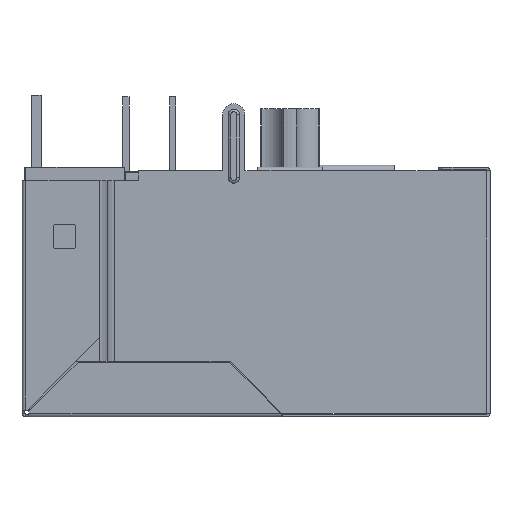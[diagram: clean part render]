
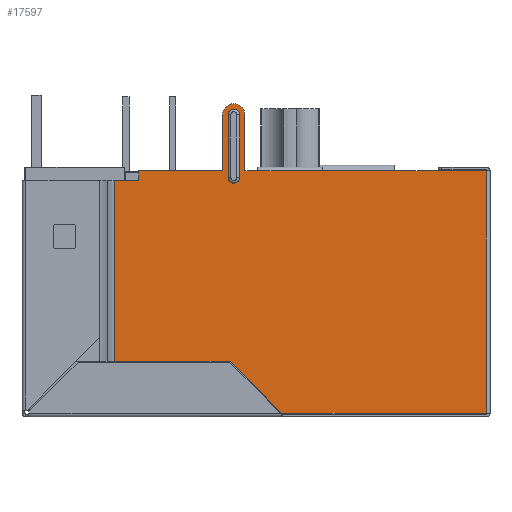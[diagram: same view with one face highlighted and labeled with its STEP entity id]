
A CAD part, left-side view. The second image highlights one B-rep face of the part: STEP entity #17597.
In plain terms, the highlighted planar face has unit normal (-1, 0, 0).
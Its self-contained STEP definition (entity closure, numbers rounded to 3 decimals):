
#690=FACE_BOUND('',#2942,.T.);
#1198=PLANE('',#18992);
#2003=FACE_OUTER_BOUND('',#2941,.T.);
#2941=EDGE_LOOP('',(#15531,#15532,#15533,#15534,#15535,#15536,#15537,#15538,
#15539,#15540,#15541,#15542,#15543,#15544));
#2942=EDGE_LOOP('',(#15545,#15546,#15547,#15548));
#3464=CIRCLE('',#18980,0.3);
#3469=CIRCLE('',#18988,0.3);
#3471=CIRCLE('',#18993,0.6);
#5284=LINE('',#28958,#7272);
#5285=LINE('',#28961,#7273);
#5287=LINE('',#28973,#7275);
#5288=LINE('',#28975,#7276);
#5289=LINE('',#28977,#7277);
#5290=LINE('',#28979,#7278);
#5291=LINE('',#28981,#7279);
#5292=LINE('',#28983,#7280);
#5293=LINE('',#28985,#7281);
#5294=LINE('',#28987,#7282);
#5295=LINE('',#28991,#7283);
#5296=LINE('',#28993,#7284);
#5297=LINE('',#28995,#7285);
#5298=LINE('',#28997,#7286);
#5299=LINE('',#28998,#7287);
#7272=VECTOR('',#22987,1000.);
#7273=VECTOR('',#22990,1000.);
#7275=VECTOR('',#23006,1000.);
#7276=VECTOR('',#23007,1000.);
#7277=VECTOR('',#23008,1000.);
#7278=VECTOR('',#23009,1000.);
#7279=VECTOR('',#23010,1000.);
#7280=VECTOR('',#23011,1000.);
#7281=VECTOR('',#23012,1000.);
#7282=VECTOR('',#23013,1000.);
#7283=VECTOR('',#23016,1000.);
#7284=VECTOR('',#23017,1000.);
#7285=VECTOR('',#23018,1000.);
#7286=VECTOR('',#23019,1000.);
#7287=VECTOR('',#23020,1000.);
#8950=VERTEX_POINT('',#28945);
#8952=VERTEX_POINT('',#28948);
#8955=VERTEX_POINT('',#28956);
#8956=VERTEX_POINT('',#28960);
#8958=VERTEX_POINT('',#28971);
#8959=VERTEX_POINT('',#28972);
#8960=VERTEX_POINT('',#28974);
#8961=VERTEX_POINT('',#28976);
#8962=VERTEX_POINT('',#28978);
#8963=VERTEX_POINT('',#28980);
#8964=VERTEX_POINT('',#28982);
#8965=VERTEX_POINT('',#28984);
#8966=VERTEX_POINT('',#28986);
#8967=VERTEX_POINT('',#28988);
#8968=VERTEX_POINT('',#28990);
#8969=VERTEX_POINT('',#28992);
#8970=VERTEX_POINT('',#28994);
#8971=VERTEX_POINT('',#28996);
#11222=EDGE_CURVE('',#8952,#8950,#3464,.F.);
#11227=EDGE_CURVE('',#8950,#8955,#5284,.T.);
#11228=EDGE_CURVE('',#8956,#8952,#5285,.T.);
#11231=EDGE_CURVE('',#8955,#8956,#3469,.F.);
#11233=EDGE_CURVE('',#8958,#8959,#5287,.T.);
#11234=EDGE_CURVE('',#8960,#8958,#5288,.T.);
#11235=EDGE_CURVE('',#8960,#8961,#5289,.T.);
#11236=EDGE_CURVE('',#8961,#8962,#5290,.T.);
#11237=EDGE_CURVE('',#8962,#8963,#5291,.T.);
#11238=EDGE_CURVE('',#8963,#8964,#5292,.T.);
#11239=EDGE_CURVE('',#8964,#8965,#5293,.T.);
#11240=EDGE_CURVE('',#8966,#8965,#5294,.T.);
#11241=EDGE_CURVE('',#8967,#8966,#3471,.T.);
#11242=EDGE_CURVE('',#8968,#8967,#5295,.T.);
#11243=EDGE_CURVE('',#8968,#8969,#5296,.T.);
#11244=EDGE_CURVE('',#8970,#8969,#5297,.T.);
#11245=EDGE_CURVE('',#8971,#8970,#5298,.T.);
#11246=EDGE_CURVE('',#8971,#8959,#5299,.T.);
#15531=ORIENTED_EDGE('',*,*,#11233,.F.);
#15532=ORIENTED_EDGE('',*,*,#11234,.F.);
#15533=ORIENTED_EDGE('',*,*,#11235,.T.);
#15534=ORIENTED_EDGE('',*,*,#11236,.T.);
#15535=ORIENTED_EDGE('',*,*,#11237,.T.);
#15536=ORIENTED_EDGE('',*,*,#11238,.T.);
#15537=ORIENTED_EDGE('',*,*,#11239,.T.);
#15538=ORIENTED_EDGE('',*,*,#11240,.F.);
#15539=ORIENTED_EDGE('',*,*,#11241,.F.);
#15540=ORIENTED_EDGE('',*,*,#11242,.F.);
#15541=ORIENTED_EDGE('',*,*,#11243,.T.);
#15542=ORIENTED_EDGE('',*,*,#11244,.F.);
#15543=ORIENTED_EDGE('',*,*,#11245,.F.);
#15544=ORIENTED_EDGE('',*,*,#11246,.T.);
#15545=ORIENTED_EDGE('',*,*,#11228,.T.);
#15546=ORIENTED_EDGE('',*,*,#11222,.T.);
#15547=ORIENTED_EDGE('',*,*,#11227,.T.);
#15548=ORIENTED_EDGE('',*,*,#11231,.T.);
#17597=ADVANCED_FACE('',(#2003,#690),#1198,.T.);
#18980=AXIS2_PLACEMENT_3D('',#28949,#22976,#22977);
#18988=AXIS2_PLACEMENT_3D('',#28966,#22996,#22997);
#18992=AXIS2_PLACEMENT_3D('',#28970,#23004,#23005);
#18993=AXIS2_PLACEMENT_3D('',#28989,#23014,#23015);
#22976=DIRECTION('center_axis',(-1.,0.,0.));
#22977=DIRECTION('ref_axis',(0.,0.,1.));
#22987=DIRECTION('',(0.,0.,1.));
#22990=DIRECTION('',(0.,0.,-1.));
#22996=DIRECTION('center_axis',(-1.,0.,0.));
#22997=DIRECTION('ref_axis',(0.,0.,1.));
#23004=DIRECTION('center_axis',(-1.,0.,0.));
#23005=DIRECTION('ref_axis',(0.,0.,1.));
#23006=DIRECTION('',(0.,1.,0.));
#23007=DIRECTION('',(0.,0.707,0.707));
#23008=DIRECTION('',(0.,-1.,0.));
#23009=DIRECTION('',(0.,0.,1.));
#23010=DIRECTION('',(0.,1.,0.));
#23011=DIRECTION('',(0.,1.,0.));
#23012=DIRECTION('',(0.,1.,0.));
#23013=DIRECTION('',(0.,0.,-1.));
#23014=DIRECTION('center_axis',(1.,0.,0.));
#23015=DIRECTION('ref_axis',(0.,1.,0.));
#23016=DIRECTION('',(0.,0.,1.));
#23017=DIRECTION('',(0.,1.,0.));
#23018=DIRECTION('',(0.,0.,1.));
#23019=DIRECTION('',(0.,-1.,0.));
#23020=DIRECTION('',(0.,0.,-1.));
#28945=CARTESIAN_POINT('',(-8.1,1.5,6.19));
#28948=CARTESIAN_POINT('',(-8.1,0.9,6.19));
#28949=CARTESIAN_POINT('Origin',(-8.1,1.2,6.19));
#28956=CARTESIAN_POINT('',(-8.1,1.5,9.59));
#28958=CARTESIAN_POINT('',(-8.1,1.5,-6.55));
#28960=CARTESIAN_POINT('',(-8.1,0.9,9.59));
#28961=CARTESIAN_POINT('',(-8.1,0.9,-6.55));
#28966=CARTESIAN_POINT('Origin',(-8.1,1.2,9.59));
#28970=CARTESIAN_POINT('Origin',(-8.1,-12.528,-6.55));
#28971=CARTESIAN_POINT('',(-8.1,1.4,-3.75));
#28972=CARTESIAN_POINT('',(-8.1,7.65,-3.75));
#28973=CARTESIAN_POINT('',(-8.1,-12.528,-3.75));
#28974=CARTESIAN_POINT('',(-8.1,-1.4,-6.55));
#28975=CARTESIAN_POINT('',(-8.1,-6.964,-12.114));
#28976=CARTESIAN_POINT('',(-8.1,-12.45,-6.55));
#28977=CARTESIAN_POINT('',(-8.1,7.65,-6.55));
#28978=CARTESIAN_POINT('',(-8.1,-12.45,6.55));
#28979=CARTESIAN_POINT('',(-8.1,-12.45,-6.55));
#28980=CARTESIAN_POINT('',(-8.1,-3.6,6.55));
#28981=CARTESIAN_POINT('',(-8.1,-12.528,6.55));
#28982=CARTESIAN_POINT('',(-8.1,-0.1,6.55));
#28983=CARTESIAN_POINT('',(-8.1,-3.6,6.55));
#28984=CARTESIAN_POINT('',(-8.1,0.6,6.55));
#28985=CARTESIAN_POINT('',(-8.1,-12.528,6.55));
#28986=CARTESIAN_POINT('',(-8.1,0.6,9.59));
#28987=CARTESIAN_POINT('',(-8.1,0.6,9.59));
#28988=CARTESIAN_POINT('',(-8.1,1.8,9.59));
#28989=CARTESIAN_POINT('Origin',(-8.1,1.2,9.59));
#28990=CARTESIAN_POINT('',(-8.1,1.8,6.55));
#28991=CARTESIAN_POINT('',(-8.1,1.8,6.55));
#28992=CARTESIAN_POINT('',(-8.1,6.35,6.55));
#28993=CARTESIAN_POINT('',(-8.1,-12.528,6.55));
#28994=CARTESIAN_POINT('',(-8.1,6.35,6.05));
#28995=CARTESIAN_POINT('',(-8.1,6.35,-6.55));
#28996=CARTESIAN_POINT('',(-8.1,7.65,6.05));
#28997=CARTESIAN_POINT('',(-8.1,-12.528,6.05));
#28998=CARTESIAN_POINT('',(-8.1,7.65,6.55));
